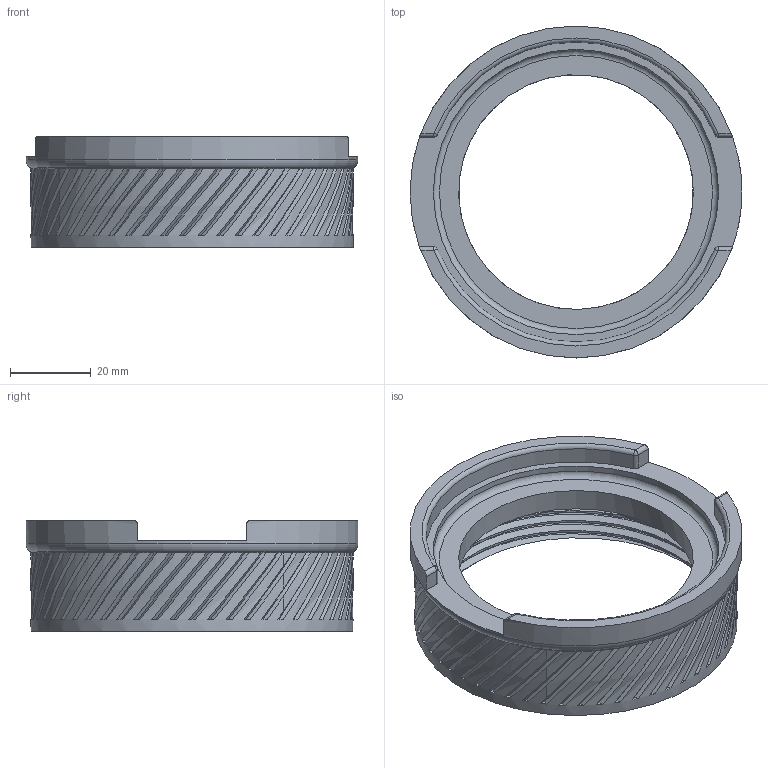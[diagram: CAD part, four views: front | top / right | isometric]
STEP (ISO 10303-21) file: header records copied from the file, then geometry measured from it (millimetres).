
FILE_DESCRIPTION(/* description */ ('STEP AP242','CAx-IF Rec.Pracs.---Representation and Presentation of Product Manufacturing Information (PMI)---4.0---2014-10-13','CAx-IF Rec.Pracs.---3D Tessellated Geometry---0.4---2014-09-14','2;1'),/* implementation_level */ '2;1');
FILE_NAME(/* name */ '646928cccac4670533c2194c',/* time_stamp */ '2023-05-20T20:08:45Z',/* author */ (''),/* organization */ (''),/* preprocessor_version */ 'ST-DEVELOPER v19.4',/* originating_system */ ' ',/* authorisation */ ' ');
FILE_SCHEMA (('AP242_MANAGED_MODEL_BASED_3D_ENGINEERING_MIM_LF { 1 0 10303 442 1 1 4 }'));
Length unit declared in the file: metre
Products named in the file (1): Base 25mm NoMagnet Lug
Bounding box: 82 x 82 x 27.4 mm (x, y, z)
Volume: 34721.7 mm3; surface area: 18910.1 mm2
Topology: 1 solids, 1 shells, 304 faces, 781 edges, 478 vertices
Faces by surface type: bspline 144, plane 130, cylinder 18, torus 4, cone 4, sphere 4
Full cylindrical faces by diameter (mm): 58 x1, 70.5 x1, 79.6 x1, 82 x1
Entity records: 15604 total; most frequent: CARTESIAN_POINT 9924, ORIENTED_EDGE 1508, DIRECTION 785, EDGE_CURVE 754, VERTEX_POINT 466, AXIS2_PLACEMENT_3D 358, B_SPLINE_CURVE_WITH_KNOTS 323, EDGE_LOOP 314
